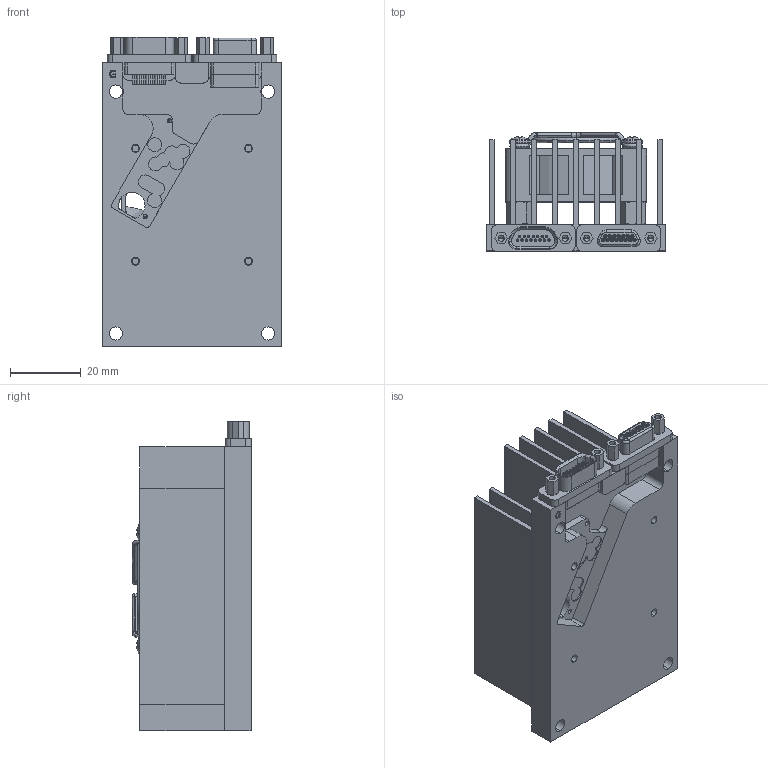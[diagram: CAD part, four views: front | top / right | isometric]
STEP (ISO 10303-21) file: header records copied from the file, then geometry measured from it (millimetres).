
FILE_DESCRIPTION (( 'STEP AP214' ), '1' );
FILE_NAME ('AIRBORNE_HEATSINK.STEP', '2014-04-03T10:14:24', ( '' ), ( '' ), 'SwSTEP 2.0', 'SolidWorks 2014', '' );
FILE_SCHEMA (( 'AUTOMOTIVE_DESIGN' ));
Length unit declared in the file: inch
Products named in the file (9): MCMASTER-CARR-PAN-HEAD-PHILLIPS-#4-40X0.625-91772A112_91772A112; QUALTEK-40MM-DIA-FINGER-GUARD-08149; DELTA-FAN-40MMX40MMX15MM-AFB0412SHB; MCMASTER-CARR-HEX-MALE-FEMALE-THREADED-STANDOFF-#4-40X.250-91075A430_91075A430; QSX-2_56-JACKPOST-; GLENAIR-PLUG-MDM15-M8351303-B05N; GLENAIR-SOCKET-MDM15-M8351304-B05N; QSX-TX-2X3-AIRBORNE-HEATSINK-G; AIRBORNE_HEATSINK
Assembly tree (17 placements, depth 2):
  AIRBORNE_HEATSINK
    QSX-TX-2X3-AIRBORNE-HEATSINK-G
    GLENAIR-SOCKET-MDM15-M8351304-B05N
    GLENAIR-PLUG-MDM15-M8351303-B05N
    QSX-2_56-JACKPOST-  x4
    MCMASTER-CARR-HEX-MALE-FEMALE-THREADED-STANDOFF-#4-40X.250-91075A430_91075A430  x4
    DELTA-FAN-40MMX40MMX15MM-AFB0412SHB
    QUALTEK-40MM-DIA-FINGER-GUARD-08149
    MCMASTER-CARR-PAN-HEAD-PHILLIPS-#4-40X0.625-91772A112_91772A112  x4
Bounding box: 50.8 x 33.75 x 87.83 mm (x, y, z)
Volume: 51632.6 mm3; surface area: 49015 mm2
Topology: 33 solids, 33 shells, 1935 faces, 4990 edges, 3238 vertices
Faces by surface type: cylinder 1012, plane 513, bspline 214, cone 151, torus 37, sphere 8
Entity records: 52288 total; most frequent: CARTESIAN_POINT 18584, ORIENTED_EDGE 5822, DIRECTION 5214, EDGE_CURVE 2911, AXIS2_PLACEMENT_3D 1974, VERTEX_POINT 1891, EDGE_LOOP 1360, VECTOR 1266
